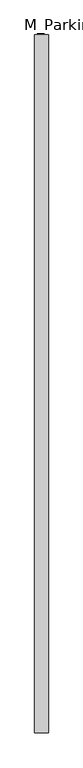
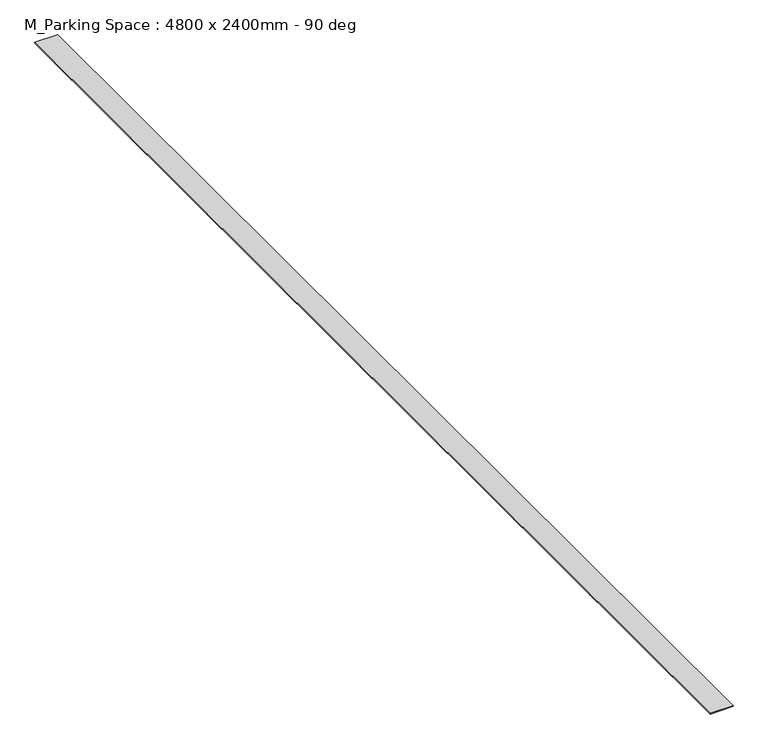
"""IFC4 building model written with IfcOpenShell, lengths in millimetres: proxy geometry, M_Parking Space : 4800 x 2400mm - 90 deg."""

from ifc_helpers import new_model, si_unit, origin, origin_with_axes, place, context, project, spatial, polyline, outline, extrude, source, transform, mapped, element, save


def m_parking_space_4800_x_2400mm_90_deg_4f713f9d(model_context):
    return source(origin(), model_context, "Body", "SweptSolid", [
        extrude(outline(polyline([(-50.8, 0.0), (50.8, 0.0), (50.8, -5200.0), (-50.8, -5200.0), (-50.8, 0.0)])), origin_with_axes(), (0.0, 0.0, 1.0), 3.175),
    ])


if __name__ == "__main__":
    model = new_model("IFC4")
    model_context = context("Model", 3, world=origin())
    ifc_project = project(units=[si_unit("LENGTHUNIT", "METRE", prefix="MILLI")], contexts=[model_context])
    site = spatial("IfcSite", under=ifc_project)
    building = spatial("IfcBuilding", under=site)
    placement = place(None, origin())
    m_parking_space_4800_x_2400mm_90_deg_shape = m_parking_space_4800_x_2400mm_90_deg_4f713f9d(model_context)
    element("IfcBuildingElementProxy", 1, Name="M_Parking Space : 4800 x 2400mm - 90 deg", ObjectType="M_Parking Space : 4800 x 2400mm - 90 deg", at=placement, inside=building, context=model_context, shape_type="MappedRepresentation", body=[
        mapped(m_parking_space_4800_x_2400mm_90_deg_shape, transform((0.0, 0.0, 0.0), x_axis=(1.0, 0.0, 0.0), y_axis=(0.0, 1.0, 0.0), z_axis=(0.0, 0.0, 1.0))),
    ])
    save(model, "model.ifc")
